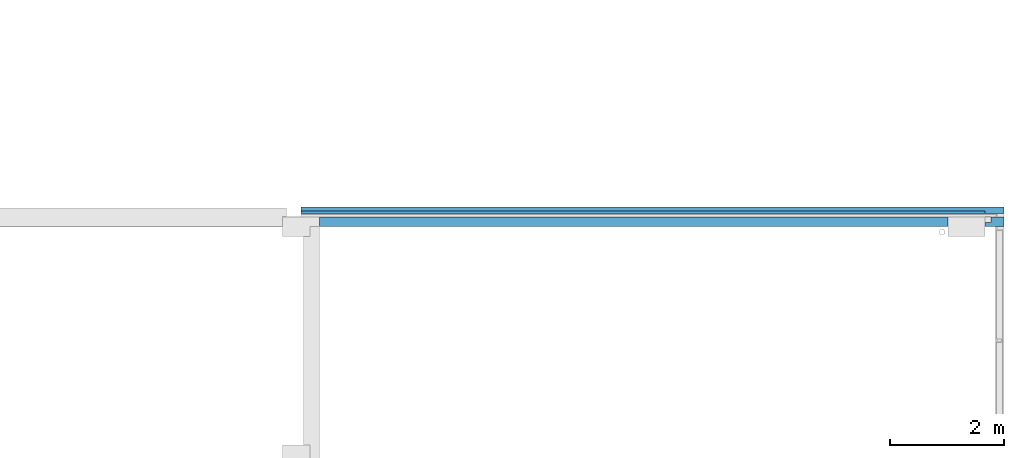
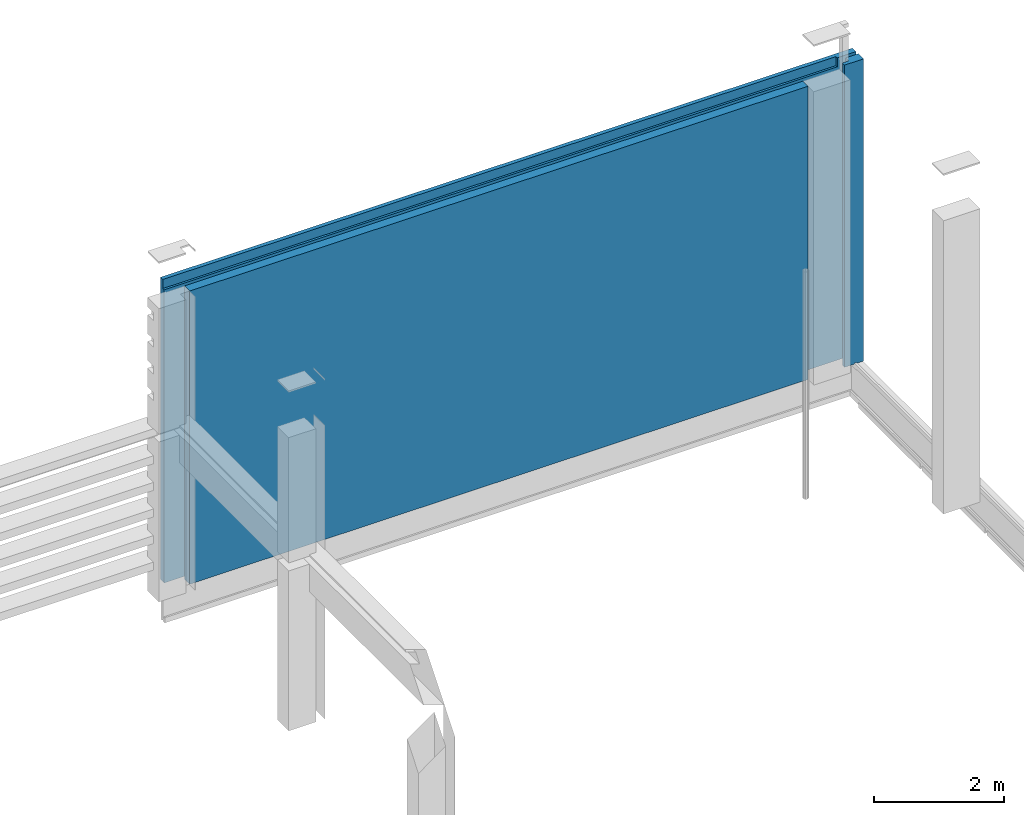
# One storey, part 63 of 94: 2 building element parts, 1 element without a shape of its own.
"""IFC2X3 building model written with IfcOpenShell, lengths in millimetres."""

import ifcopenshell
import ifcopenshell.guid

model = None  # the IFC model being written
_history = None  # IfcOwnerHistory: only IFC2X3 demands one
_inside = {}  # id of a spatial element -> (the spatial element, [elements in it])
_under = {}  # id of a project, library or spatial element -> (it, [spatial elements below it])
_declared = {}  # id of a project -> (the project, [libraries it declares])
_typed = {}  # id of a type object -> (the type object, [elements of that type])
_made_of = {}  # id of a material, layer set ... -> (it, [elements and type objects made of it])


def new_model(schema):
    """Start an empty IFC model of exactly this schema.

    Asked for "IFC4X3", IfcOpenShell would pick the latest addendum, in which some entities
    have other attributes; the version numbers below select the first issue.
    IFC2X3 requires an IfcOwnerHistory on every rooted entity: one is made here for all.
    """
    global model, _history
    if schema == "IFC4X3":
        model = ifcopenshell.file(schema_version=(4, 3, 0, 0))
    else:
        model = ifcopenshell.file(schema=schema)
    _inside.clear()
    _under.clear()
    _declared.clear()
    _typed.clear()
    _made_of.clear()
    _history = None
    if model.schema == "IFC2X3":
        org = make("IfcOrganization", Name="unknown")
        user = make(
            "IfcPersonAndOrganization",
            ThePerson=make("IfcPerson", FamilyName="unknown"),
            TheOrganization=org,
        )
        app = make(
            "IfcApplication",
            ApplicationDeveloper=org,
            Version="unknown",
            ApplicationFullName="unknown",
            ApplicationIdentifier="unknown",
        )
        _history = make(
            "IfcOwnerHistory",
            OwningUser=user,
            OwningApplication=app,
            ChangeAction="ADDED",
            CreationDate=0,
        )
    return model


def make(cls, **values):
    """One entity of the class cls with the attributes given. An attribute that is None is left unset."""
    return model.create_entity(
        cls, **{name: value for name, value in values.items() if value is not None}
    )


def entity(cls, *values):
    """Any entity or typed value of the class cls, its attributes in the order of the schema. None: left unset."""
    e = model.create_entity(cls)
    for i, value in enumerate(values):
        if value is not None:
            e[i] = value
    return e


def rooted(cls, **values):
    """An entity with a GlobalId (a new one), such as an element, a storey or a relation."""
    return make(cls, GlobalId=ifcopenshell.guid.new(), OwnerHistory=_history, **values)


def si_unit(unit_type, name, prefix=None):
    """IfcSIUnit, for example si_unit("LENGTHUNIT", "METRE", prefix="MILLI")."""
    return make("IfcSIUnit", UnitType=unit_type, Prefix=prefix, Name=name)


def converted_unit(unit_type, name, factor, base, dimensions=None, offset=None):
    """IfcConversionBasedUnit, such as the inch: factor (a typed value) times the base unit."""
    return make(
        "IfcConversionBasedUnit"
        if offset is None
        else "IfcConversionBasedUnitWithOffset",
        ConversionOffset=offset,
        Dimensions=None
        if dimensions is None
        else entity("IfcDimensionalExponents", *dimensions),
        UnitType=unit_type,
        Name=name,
        ConversionFactor=make(
            "IfcMeasureWithUnit", ValueComponent=factor, UnitComponent=base
        ),
    )


def derived_unit(unit_type, elements):
    """IfcDerivedUnit: a product of units, each with its exponent."""
    return make(
        "IfcDerivedUnit",
        Elements=[
            make("IfcDerivedUnitElement", Unit=unit, Exponent=power)
            for unit, power in elements
        ],
        UnitType=unit_type,
    )


def money_unit(currency):
    """IfcMonetaryUnit."""
    return make("IfcMonetaryUnit", Currency=currency)


def assignment(units):
    """IfcUnitAssignment: the units of a project."""
    return None if units is None else make("IfcUnitAssignment", Units=units)


def point(xyz):
    """IfcCartesianPoint."""
    return None if xyz is None else make("IfcCartesianPoint", Coordinates=xyz)


def direction(xyz):
    """IfcDirection."""
    return None if xyz is None else make("IfcDirection", DirectionRatios=xyz)


def frame(location, z_axis=None, x_axis=None):
    """IfcAxis2Placement3D, a coordinate frame: its origin and axes. An axis left out is left unset."""
    return make(
        "IfcAxis2Placement3D",
        Location=point(location),
        Axis=direction(z_axis),
        RefDirection=direction(x_axis),
    )


def origin_with_axes():
    """The frame at (0, 0, 0) with the z axis (0, 0, 1) and the x axis (1, 0, 0) written out."""
    return frame((0.0, 0.0, 0.0), z_axis=(0.0, 0.0, 1.0), x_axis=(1.0, 0.0, 0.0))


def place(relative_to, where):
    """IfcLocalPlacement: puts the frame where relative to a parent placement (None: the world)."""
    return make(
        "IfcLocalPlacement", PlacementRelTo=relative_to, RelativePlacement=where
    )


def context(
    kind, dimensions, precision=None, world=None, true_north=None, identifier=None
):
    """IfcGeometricRepresentationContext, for example the 3D "Model" context."""
    return make(
        "IfcGeometricRepresentationContext",
        ContextIdentifier=identifier,
        ContextType=kind,
        CoordinateSpaceDimension=dimensions,
        Precision=precision,
        WorldCoordinateSystem=world,
        TrueNorth=true_north,
    )


def subcontext(parent, identifier, kind, view, scale=None):
    """IfcGeometricRepresentationSubContext, for example "Body" below "Model"."""
    return make(
        "IfcGeometricRepresentationSubContext",
        ContextIdentifier=identifier,
        ContextType=kind,
        ParentContext=parent,
        TargetScale=scale,
        TargetView=view,
    )


def project(units=None, contexts=None):
    """IfcProject with its units and contexts."""
    return rooted(
        "IfcProject",
        Name="project",
        RepresentationContexts=contexts,
        UnitsInContext=assignment(units),
    )


def spatial(cls, under=None, at=None, **own):
    """A site, building, storey or space (cls), placed at a placement, below another one or the project."""
    s = rooted(cls, ObjectPlacement=at, **own)
    if under is not None:
        _under.setdefault(under.id(), (under, []))[1].append(s)
    return s


def faces_of(points, faces, orient=None, outer=None):
    """IfcFace entities. A face is a list of loops; a loop is a list of indices into points, from 0.

    orient and outer hold one flag for each loop. By default every Orientation is true, the
    first loop of a face is its IfcFaceOuterBound and the others are IfcFaceBound.
    """
    made = []
    for i, loops in enumerate(faces):
        bounds = []
        for j, loop in enumerate(loops):
            is_outer = j == 0 if outer is None else outer[i][j]
            bounds.append(
                make(
                    "IfcFaceOuterBound" if is_outer else "IfcFaceBound",
                    Bound=make("IfcPolyLoop", Polygon=[points[k] for k in loop]),
                    Orientation=True if orient is None else orient[i][j],
                )
            )
        made.append(make("IfcFace", Bounds=bounds))
    return made


def faceted_brep(points, faces, orient=None, outer=None, voids=None):
    """IfcFacetedBrep: a solid bounded by flat faces; with voids (closed shells), ...WithVoids."""
    shared = [point(p) for p in points]
    hull = make("IfcClosedShell", CfsFaces=faces_of(shared, faces, orient, outer))
    if voids is None:
        return make("IfcFacetedBrep", Outer=hull)
    return make(
        "IfcFacetedBrepWithVoids",
        Outer=hull,
        Voids=[
            make(cls, CfsFaces=faces_of(shared, fs, o, b)) for cls, fs, o, b in voids
        ],
    )


def shape(context_of_items, identifier, shape_type, items):
    """IfcShapeRepresentation: the items that make up one representation, for example the "Body"."""
    return make(
        "IfcShapeRepresentation",
        ContextOfItems=context_of_items,
        RepresentationIdentifier=identifier,
        RepresentationType=shape_type,
        Items=items,
    )


def material(Name=None, Category=None):
    """IfcMaterial."""
    return make("IfcMaterial", Name=Name, Category=Category)


def made_of(thing, what):
    """Note that an element or type object is made of a material, layer set ...; save() writes the relation."""
    if what is not None:
        _made_of.setdefault(what.id(), (what, []))[1].append(thing)
    return thing


def type_object(cls, material=None, **own):
    """A type object (cls), such as IfcWallType, which elements share."""
    return made_of(rooted(cls, **own), material)


def element(
    cls,
    number,
    at=None,
    inside=None,
    cuts=None,
    type_object=None,
    material=None,
    context=None,
    identifier="Body",
    shape_type=None,
    held_by="IfcProductDefinitionShape",
    body=None,
    shapes=None,
    **own,
):
    """One element of the class cls, such as IfcWall. Its Tag is "e" and its number.

    at: its placement. inside: the storey or other place that contains it. cuts: it is an
    opening in that element (IfcRelVoidsElement). A single representation is given by context,
    identifier, shape_type and body (its items); several are given by shapes. held_by: the class
    of the entity that holds the representations. save() writes the other relations.
    """
    e = rooted(cls, Tag="e%d" % number, ObjectPlacement=at, **own)
    if body is not None:
        shapes = [shape(context, identifier, shape_type, body)]
    if shapes is not None:
        e.Representation = make(held_by, Representations=shapes)
    if inside is not None:
        _inside.setdefault(inside.id(), (inside, []))[1].append(e)
    if cuts is not None:
        rooted(
            "IfcRelVoidsElement", RelatingBuildingElement=cuts, RelatedOpeningElement=e
        )
    if type_object is not None:
        _typed.setdefault(type_object.id(), (type_object, []))[1].append(e)
    return made_of(e, material)


def aggregate(whole, parts):
    """IfcRelAggregates: a whole, such as a stair, and the parts it consists of."""
    return rooted("IfcRelAggregates", RelatingObject=whole, RelatedObjects=parts)


def save(model, path):
    """Write the relations noted so far, then the file.

    IfcRelAggregates (storeys below a building ...), IfcRelContainedInSpatialStructure (elements
    in a storey), IfcRelDefinesByType, IfcRelAssociatesMaterial and IfcRelDeclares: one each for
    every whole, place, type object, material and project.
    """
    for whole, parts in _under.values():
        aggregate(whole, parts)
    for where, things in _inside.values():
        rooted(
            "IfcRelContainedInSpatialStructure",
            RelatedElements=things,
            RelatingStructure=where,
        )
    for kind, things in _typed.values():
        rooted("IfcRelDefinesByType", RelatedObjects=things, RelatingType=kind)
    for what, things in _made_of.values():
        rooted("IfcRelAssociatesMaterial", RelatedObjects=things, RelatingMaterial=what)
    for by, libraries in _declared.values():
        rooted("IfcRelDeclares", RelatingContext=by, RelatedDefinitions=libraries)
    model.write(path)


model = new_model("IFC2X3")

# Units and contexts
model_context = context("Model", 3, precision=0.01, world=origin_with_axes(), true_north=direction((0.0, 1.0)))
body_context = subcontext(model_context, "Body", "Model", "MODEL_VIEW")
ifc_project = project(units=[si_unit("LENGTHUNIT", "METRE", prefix="MILLI"), si_unit("AREAUNIT", "SQUARE_METRE"), si_unit("VOLUMEUNIT", "CUBIC_METRE"), converted_unit("PLANEANGLEUNIT", "DEGREE", entity("IfcPlaneAngleMeasure", 0.0174532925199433), si_unit("PLANEANGLEUNIT", "RADIAN"), dimensions=[0, 0, 0, 0, 0, 0, 0]), money_unit("EUR"), converted_unit("TIMEUNIT", "Year", entity("IfcTimeMeasure", 31557600.0), si_unit("TIMEUNIT", "SECOND"), dimensions=[0, 0, 1, 0, 0, 0, 0]), si_unit("MASSUNIT", "GRAM", prefix="KILO"), si_unit("THERMODYNAMICTEMPERATUREUNIT", "DEGREE_CELSIUS"), si_unit("LUMINOUSINTENSITYUNIT", "LUMEN"), si_unit("ENERGYUNIT", "JOULE", prefix="MEGA"), derived_unit("THERMALCONDUCTANCEUNIT", [(si_unit("POWERUNIT", "WATT"), 1), (si_unit("LENGTHUNIT", "METRE"), -1), (si_unit("THERMODYNAMICTEMPERATUREUNIT", "KELVIN"), -1)]), derived_unit("SPECIFICHEATCAPACITYUNIT", [(si_unit("ENERGYUNIT", "JOULE"), 1), (si_unit("MASSUNIT", "GRAM", prefix="KILO"), -1), (si_unit("THERMODYNAMICTEMPERATUREUNIT", "KELVIN"), -1)]), derived_unit("MASSDENSITYUNIT", [(si_unit("MASSUNIT", "GRAM", prefix="KILO"), 1), (si_unit("VOLUMEUNIT", "CUBIC_METRE"), -1)])], contexts=[model_context])

# Site, building, storey
site_placement = place(None, origin_with_axes())
site = spatial("IfcSite", under=ifc_project, at=site_placement, Name="<site naam>", CompositionType="ELEMENT")
building_placement = place(site_placement, origin_with_axes())
building = spatial("IfcBuilding", under=site, at=building_placement, Name="<Naam gebouw>", CompositionType="ELEMENT")
storey_placement = place(building_placement, frame((0.0, 0.0, 4250.0), z_axis=(0.0, 0.0, 1.0), x_axis=(1.0, 0.0, 0.0)))
storey = spatial("IfcBuildingStorey", under=building, at=storey_placement, Name="01 1e verdieping", CompositionType="ELEMENT", Elevation=4250.0)

# Wall, building element parts
wall_type = type_object("IfcWallType", Name="metselwerk-lucht-kalkzandsteen 335 335", PredefinedType="NOTDEFINED")
wall_placement = place(storey_placement, frame((70310.0, 20335.00000000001, 2125.0), z_axis=(0.0, 0.0, 1.0), x_axis=(-1.0, 0.0, 0.0)))
wall = element("IfcWall", 1, at=wall_placement, inside=storey, type_object=wall_type, Name="21_Binnenwand_metselwerk-lucht-kalkzandsteen")
ifc_material_1 = material(Name="kalkzandsteen C")
building_element_part_1_placement = place(wall_placement, origin_with_axes())
building_element_part_1 = element("IfcBuildingElementPart", 2, at=building_element_part_1_placement, material=ifc_material_1, Name="kalkzandsteen C", context=body_context, shape_type="Brep", body=[
    faceted_brep([(984.9999999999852, 175.0000000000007, 0.0), (11984.99999999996, 175.0000000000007, 0.0), (11984.99999999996, 175.0000000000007, 5515.000000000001), (984.9999999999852, 175.0000000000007, 5515.000000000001), (984.9999999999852, 335.0000000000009, 0.0), (11984.99999999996, 335.0000000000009, 0.0), (11984.99999999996, 335.0000000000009, 5515.000000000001), (984.9999999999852, 335.0000000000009, 5515.000000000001)], [[[0, 1, 2, 3]], [[4, 5, 1, 0]], [[5, 6, 2, 1]], [[3, 2, 6, 7]], [[4, 0, 3, 7]], [[7, 6, 5, 4]]]),
    faceted_brep([(224.9996313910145, 267.7002217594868, 0.0), (334.9999999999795, 267.7002217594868, 0.0), (334.9999999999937, 267.7002217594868, 5685.00000396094), (224.9996313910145, 267.7002217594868, 5685.00000396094), (160.0000071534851, 335.0000000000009, 0.0), (334.9999999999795, 335.0000000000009, 0.0), (224.9996313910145, 175.0000000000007, 0.0), (160.0000071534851, 175.0000000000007, 0.0), (334.9999999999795, 335.0000000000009, 5685.00000396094), (224.9996313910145, 175.0000000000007, 5685.00000396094), (0.0, 335.0000000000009, 5685.00000396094), (0.0, 175.0000000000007, 5685.00000396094), (160.0000071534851, 335.0000000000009, 20.00000000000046), (120.0000003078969, 335.0000000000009, 20.00000000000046), (120.0000003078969, 335.0000000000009, 0.0), (0.0, 335.0000000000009, 0.0), (0.0, 175.0000000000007, 0.0), (120.0000003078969, 175.0000000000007, 0.0), (120.0000003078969, 175.0000000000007, 20.00000000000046), (160.0000071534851, 175.0000000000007, 20.00000000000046)], [[[0, 1, 2, 3]], [[4, 5, 1, 0, 6, 7]], [[2, 1, 5, 8]], [[9, 3, 2, 8, 10, 11]], [[0, 3, 9, 6]], [[8, 5, 4, 12, 13, 14, 15, 10]], [[7, 6, 9, 11, 16, 17, 18, 19]], [[12, 4, 7, 19]], [[16, 11, 10, 15]], [[13, 12, 19, 18]], [[14, 13, 18, 17]], [[16, 15, 14, 17]]]),
])
ifc_material_2 = material(Name="metselwerk AFW")
building_element_part_2_placement = place(wall_placement, origin_with_axes())
building_element_part_2 = element("IfcBuildingElementPart", 3, at=building_element_part_2_placement, material=ifc_material_2, Name="metselwerk AFW", context=body_context, shape_type="Brep", body=[
    faceted_brep([(12309.99999999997, 69.9999957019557, 5685.000062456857), (334.9999999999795, 69.9999957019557, 5685.000062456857), (334.9999999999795, 109.9999999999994, 5685.000062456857), (0.0, 109.9999999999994, 5685.00000396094), (0.0, 0.0, 5685.00000396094), (12309.99999999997, 0.0, 5685.00000396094), (334.9999999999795, 70.00000000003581, 5515.000000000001), (12309.99999999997, 70.00000000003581, 5515.000000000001), (334.9999999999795, 109.9999999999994, 5515.000000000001), (12309.99999999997, 109.9999999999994, 5515.000000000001), (12309.99999999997, 109.9999999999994, 0.0), (0.0, 109.9999999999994, 0.0), (0.0, 0.0, 0.0), (12309.99999999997, 0.0, 0.0)], [[[0, 1, 2, 3, 4, 5]], [[6, 1, 0, 7]], [[8, 2, 1, 6]], [[2, 8, 9, 10, 11, 3]], [[4, 3, 11, 12]], [[4, 12, 13, 5]], [[9, 7, 0, 5, 13, 10]], [[7, 9, 8, 6]], [[12, 11, 10, 13]]]),
])
aggregate(wall, [building_element_part_1, building_element_part_2])

save(model, "model.ifc")
